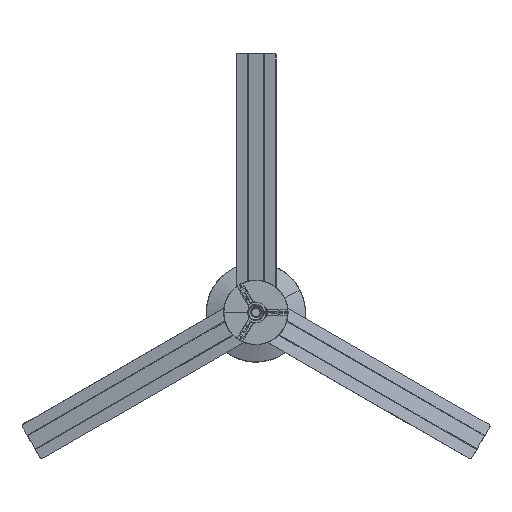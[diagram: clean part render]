
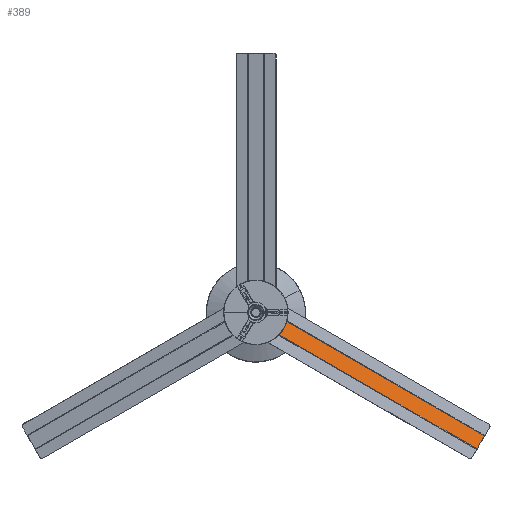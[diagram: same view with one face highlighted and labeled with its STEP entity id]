
A CAD part, top view. The second image highlights one B-rep face of the part: STEP entity #389.
In plain terms, the highlighted planar face has unit normal (0.113, 0.195, 0.974).
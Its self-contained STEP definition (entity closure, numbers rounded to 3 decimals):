
#153=FACE_BOUND('',#2578,.T.);
#389=ADVANCED_FACE('',(#1479,#153),#18017,.T.);
#1479=FACE_OUTER_BOUND('',#2577,.T.);
#2577=EDGE_LOOP('',(#4595,#4596,#4597,#4598));
#2578=EDGE_LOOP('',(#4599,#4600));
#4595=ORIENTED_EDGE('',*,*,#9952,.T.);
#4596=ORIENTED_EDGE('',*,*,#9940,.F.);
#4597=ORIENTED_EDGE('',*,*,#9941,.T.);
#4598=ORIENTED_EDGE('',*,*,#9942,.F.);
#4599=ORIENTED_EDGE('',*,*,#9880,.T.);
#4600=ORIENTED_EDGE('',*,*,#9882,.T.);
#9880=EDGE_CURVE('',#16336,#16335,#12901,.T.);
#9882=EDGE_CURVE('',#16335,#16336,#12902,.T.);
#9940=EDGE_CURVE('',#16287,#16294,#14520,.T.);
#9941=EDGE_CURVE('',#16287,#16268,#12909,.T.);
#9942=EDGE_CURVE('',#16267,#16268,#14521,.T.);
#9952=EDGE_CURVE('',#16267,#16294,#14528,.T.);
#12901=TRIMMED_CURVE($,#13557,(#24743),(#24744),.T.,.CARTESIAN.);
#12902=TRIMMED_CURVE($,#13558,(#24748),(#24749),.T.,.CARTESIAN.);
#12909=TRIMMED_CURVE($,#13565,(#24904),(#24905),.T.,.CARTESIAN.);
#13557=CIRCLE('',#19195,2.6);
#13558=CIRCLE('',#19196,2.6);
#13565=CIRCLE('',#19203,56.);
#14520=B_SPLINE_CURVE_WITH_KNOTS('',1,(#24901,#24902),.UNSPECIFIED.,.F.,
 .F.,(2,2),(-749.414,0.),.UNSPECIFIED.);
#14521=B_SPLINE_CURVE_WITH_KNOTS('',1,(#24906,#24907),.UNSPECIFIED.,.F.,
 .F.,(2,2),(-749.372,0.),.UNSPECIFIED.);
#14528=B_SPLINE_CURVE_WITH_KNOTS('',1,(#24929,#24930),.UNSPECIFIED.,.F.,
 .F.,(2,2),(-48.,0.),.UNSPECIFIED.);
#16267=VERTEX_POINT('',#24388);
#16268=VERTEX_POINT('',#24389);
#16287=VERTEX_POINT('',#24408);
#16294=VERTEX_POINT('',#24415);
#16335=VERTEX_POINT('',#24456);
#16336=VERTEX_POINT('',#24457);
#18017=PLANE('',#19179);
#19179=AXIS2_PLACEMENT_3D('',#24353,#20869,$);
#19195=AXIS2_PLACEMENT_3D($,#24742,#20895,#20896);
#19196=AXIS2_PLACEMENT_3D($,#24747,#20897,#20898);
#19203=AXIS2_PLACEMENT_3D($,#24903,#20911,#20912);
#20869=DIRECTION('',(0.112,0.195,0.974));
#20895=DIRECTION('',(-0.112,-0.195,-0.974));
#20896=DIRECTION('',(0.487,0.844,-0.225));
#20897=DIRECTION('',(-0.112,-0.195,-0.974));
#20898=DIRECTION('',(-0.487,-0.844,0.225));
#20911=DIRECTION('',(-0.112,-0.195,-0.974));
#20912=DIRECTION('',(0.991,-0.089,-0.097));
#24353=CARTESIAN_POINT('',(14360.634,-6843.632,72.466));
#24388=CARTESIAN_POINT('',(14298.038,-6801.929,71.354));
#24389=CARTESIAN_POINT('',(13649.062,-6427.243,71.354));
#24408=CARTESIAN_POINT('',(13672.411,-6386.719,60.557));
#24415=CARTESIAN_POINT('',(14321.423,-6761.426,60.557));
#24456=CARTESIAN_POINT('',(13673.655,-6417.413,66.55));
#24457=CARTESIAN_POINT('',(13676.188,-6413.026,65.38));
#24742=CARTESIAN_POINT('',(13674.922,-6415.22,65.965));
#24743=CARTESIAN_POINT('',(13676.188,-6413.026,65.38));
#24744=CARTESIAN_POINT('',(13673.655,-6417.413,66.55));
#24747=CARTESIAN_POINT('',(13674.922,-6415.22,65.965));
#24748=CARTESIAN_POINT('',(13673.655,-6417.413,66.55));
#24749=CARTESIAN_POINT('',(13676.188,-6413.026,65.38));
#24901=CARTESIAN_POINT('',(13672.411,-6386.719,60.557));
#24902=CARTESIAN_POINT('',(14321.423,-6761.426,60.557));
#24903=CARTESIAN_POINT('',(13616.898,-6381.72,65.965));
#24904=CARTESIAN_POINT('',(13672.411,-6386.719,60.557));
#24905=CARTESIAN_POINT('',(13649.062,-6427.243,71.354));
#24906=CARTESIAN_POINT('',(14298.038,-6801.929,71.354));
#24907=CARTESIAN_POINT('',(13649.062,-6427.243,71.354));
#24929=CARTESIAN_POINT('',(14298.038,-6801.929,71.354));
#24930=CARTESIAN_POINT('',(14321.423,-6761.426,60.557));
